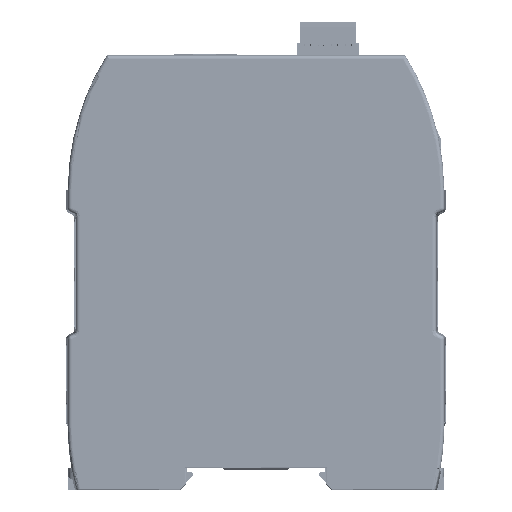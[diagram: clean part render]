
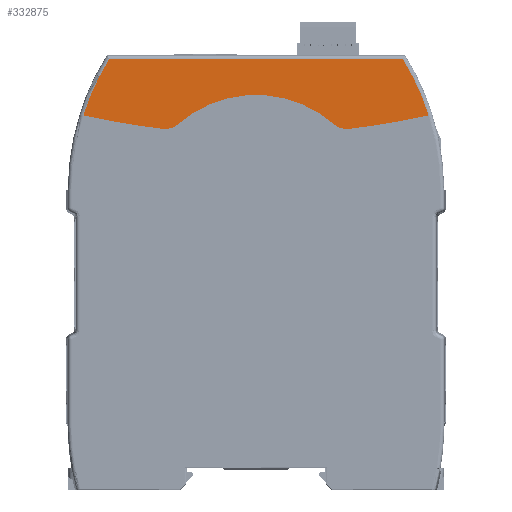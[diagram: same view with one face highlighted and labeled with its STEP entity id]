
A CAD part, left-side view. The second image highlights one B-rep face of the part: STEP entity #332875.
In plain terms, the highlighted planar face has unit normal (-1, 0, 0) as drawn and (0, 0, 1) by its records, which use the part's own axes.
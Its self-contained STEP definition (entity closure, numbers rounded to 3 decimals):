
#18541=FACE_OUTER_BOUND('',#36158,.T.);
#36158=EDGE_LOOP('',(#235434,#235435,#235436,#235437,#235438,#235439,#235440,
#235441));
#54212=CIRCLE('',#353316,200.);
#54216=CIRCLE('',#353328,200.);
#54218=CIRCLE('',#353360,62.539);
#54219=CIRCLE('',#353362,5.);
#54220=CIRCLE('',#353363,30.);
#54221=CIRCLE('',#353364,5.);
#54222=CIRCLE('',#353365,62.539);
#64493=LINE('',#496751,#103707);
#103707=VECTOR('',#389382,74.369);
#143010=VERTEX_POINT('',#496517);
#143011=VERTEX_POINT('',#496519);
#143020=VERTEX_POINT('',#496597);
#143021=VERTEX_POINT('',#496610);
#143029=VERTEX_POINT('',#496728);
#143030=VERTEX_POINT('',#496745);
#143031=VERTEX_POINT('',#496747);
#143032=VERTEX_POINT('',#496750);
#177912=EDGE_CURVE('',#143010,#143011,#54212,.T.);
#177929=EDGE_CURVE('',#143020,#143021,#54216,.T.);
#177964=EDGE_CURVE('',#143020,#143029,#54218,.T.);
#177966=EDGE_CURVE('',#143010,#143030,#54219,.T.);
#177967=EDGE_CURVE('',#143030,#143031,#54220,.T.);
#177968=EDGE_CURVE('',#143031,#143021,#54221,.T.);
#177969=EDGE_CURVE('',#143029,#143032,#64493,.T.);
#177970=EDGE_CURVE('',#143032,#143011,#54222,.T.);
#235434=ORIENTED_EDGE('',*,*,#177966,.T.);
#235435=ORIENTED_EDGE('',*,*,#177967,.T.);
#235436=ORIENTED_EDGE('',*,*,#177968,.T.);
#235437=ORIENTED_EDGE('',*,*,#177929,.F.);
#235438=ORIENTED_EDGE('',*,*,#177964,.T.);
#235439=ORIENTED_EDGE('',*,*,#177969,.T.);
#235440=ORIENTED_EDGE('',*,*,#177970,.T.);
#235441=ORIENTED_EDGE('',*,*,#177912,.F.);
#318605=PLANE('',#353361);
#332875=ADVANCED_FACE('',(#18541),#318605,.T.);
#353316=AXIS2_PLACEMENT_3D('',#496520,#389250,#389251);
#353328=AXIS2_PLACEMENT_3D('',#496611,#389279,#389280);
#353360=AXIS2_PLACEMENT_3D('',#496729,#389372,#389373);
#353361=AXIS2_PLACEMENT_3D('',#496744,#389374,#389375);
#353362=AXIS2_PLACEMENT_3D('',#496746,#389376,#389377);
#353363=AXIS2_PLACEMENT_3D('',#496748,#389378,#389379);
#353364=AXIS2_PLACEMENT_3D('',#496749,#389380,#389381);
#353365=AXIS2_PLACEMENT_3D('',#496752,#389383,#389384);
#389250=DIRECTION('center_axis',(0.,0.,-1.));
#389251=DIRECTION('ref_axis',(-0.118,-0.993,0.));
#389279=DIRECTION('center_axis',(0.,0.,-1.));
#389280=DIRECTION('ref_axis',(0.218,-0.976,0.));
#389372=DIRECTION('center_axis',(0.,0.,1.));
#389373=DIRECTION('ref_axis',(0.954,0.301,0.));
#389374=DIRECTION('center_axis',(0.,0.,1.));
#389375=DIRECTION('ref_axis',(1.,0.,0.));
#389376=DIRECTION('center_axis',(0.,0.,1.));
#389377=DIRECTION('ref_axis',(-0.118,-0.993,0.));
#389378=DIRECTION('center_axis',(0.,0.,-1.));
#389379=DIRECTION('ref_axis',(-0.658,0.753,0.));
#389380=DIRECTION('center_axis',(0.,0.,1.));
#389381=DIRECTION('ref_axis',(-0.658,-0.753,0.));
#389382=DIRECTION('',(-1.,0.,0.));
#389383=DIRECTION('center_axis',(0.,0.,1.));
#389384=DIRECTION('ref_axis',(-0.849,0.528,0.));
#496517=CARTESIAN_POINT('',(-23.611,91.399,22.5));
#496519=CARTESIAN_POINT('',(-43.697,94.832,22.5));
#496520=CARTESIAN_POINT('Origin',(0.,290.,22.5));
#496597=CARTESIAN_POINT('',(43.697,94.832,22.5));
#496610=CARTESIAN_POINT('',(23.611,91.399,22.5));
#496611=CARTESIAN_POINT('Origin',(0.,290.,22.5));
#496728=CARTESIAN_POINT('',(37.185,109.,22.5));
#496729=CARTESIAN_POINT('Origin',(-15.939,76.,22.5));
#496744=CARTESIAN_POINT('Origin',(0.,0.,22.5));
#496745=CARTESIAN_POINT('',(-19.732,92.597,22.5));
#496746=CARTESIAN_POINT('Origin',(-23.021,96.364,22.5));
#496747=CARTESIAN_POINT('',(19.732,92.597,22.5));
#496748=CARTESIAN_POINT('Origin',(0.,70.,22.5));
#496749=CARTESIAN_POINT('Origin',(23.021,96.364,22.5));
#496750=CARTESIAN_POINT('',(-37.185,109.,22.5));
#496751=CARTESIAN_POINT('',(37.185,109.,22.5));
#496752=CARTESIAN_POINT('Origin',(15.939,76.,22.5));
